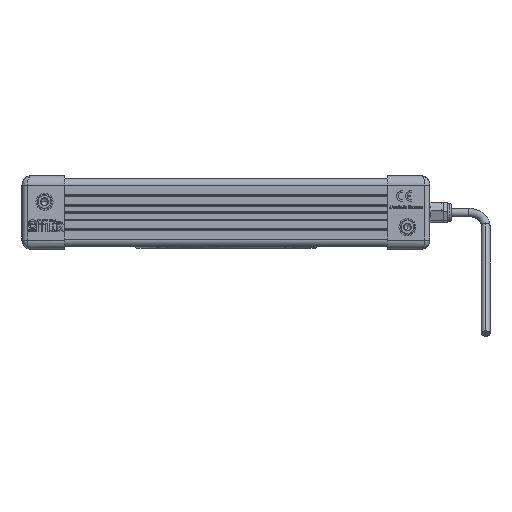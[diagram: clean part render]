
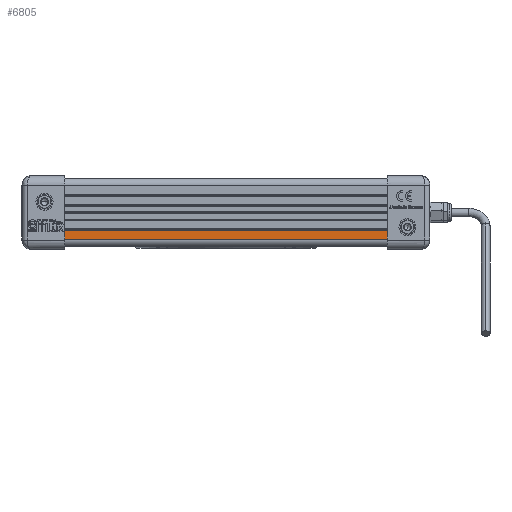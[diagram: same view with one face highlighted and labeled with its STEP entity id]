
A CAD part, front view. The second image highlights one B-rep face of the part: STEP entity #6805.
In plain terms, the highlighted planar face has unit normal (0, -1, 0) as drawn and (-1, 0, 0) by its records, which use the part's own axes.
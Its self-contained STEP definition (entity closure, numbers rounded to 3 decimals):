
#3592 = ORIENTED_EDGE ( 'NONE', *, *, #36834, .F. ) ;
#5064 = LINE ( 'NONE', #22595, #15078 ) ;
#5316 = ORIENTED_EDGE ( 'NONE', *, *, #8168, .T. ) ;
#6209 = CARTESIAN_POINT ( 'NONE',  ( -9., -16., 199. ) ) ;
#6805 = ADVANCED_FACE ( 'NONE', ( #36546 ), #53695, .F. ) ;
#8168 = EDGE_CURVE ( 'NONE', #38437, #26417, #5064, .T. ) ;
#8547 = VECTOR ( 'NONE', #36969, 1000. ) ;
#8924 = DIRECTION ( 'NONE',  ( 1., 0., 0. ) ) ;
#10689 = DIRECTION ( 'NONE',  ( 0., 0., -1. ) ) ;
#12078 = LINE ( 'NONE', #67665, #58712 ) ;
#15078 = VECTOR ( 'NONE', #44254, 1000. ) ;
#15493 = EDGE_CURVE ( 'NONE', #33593, #26417, #39047, .T. ) ;
#17494 = CARTESIAN_POINT ( 'NONE',  ( -9., -10.5, 0. ) ) ;
#19521 = VERTEX_POINT ( 'NONE', #73393 ) ;
#20802 = CARTESIAN_POINT ( 'NONE',  ( -9., -16., 199. ) ) ;
#22595 = CARTESIAN_POINT ( 'NONE',  ( -9., -10.5, 0. ) ) ;
#26161 = ORIENTED_EDGE ( 'NONE', *, *, #15493, .F. ) ;
#26417 = VERTEX_POINT ( 'NONE', #28602 ) ;
#27171 = VECTOR ( 'NONE', #10689, 1000. ) ;
#28602 = CARTESIAN_POINT ( 'NONE',  ( -9., -16., 0. ) ) ;
#33593 = VERTEX_POINT ( 'NONE', #20802 ) ;
#36546 = FACE_OUTER_BOUND ( 'NONE', #41439, .T. ) ;
#36834 = EDGE_CURVE ( 'NONE', #19521, #33593, #42931, .T. ) ;
#36969 = DIRECTION ( 'NONE',  ( 0., -1., 0. ) ) ;
#37294 = CARTESIAN_POINT ( 'NONE',  ( -9., -10.5, 199. ) ) ;
#38437 = VERTEX_POINT ( 'NONE', #17494 ) ;
#39047 = LINE ( 'NONE', #6209, #27171 ) ;
#40790 = ORIENTED_EDGE ( 'NONE', *, *, #57913, .T. ) ;
#41439 = EDGE_LOOP ( 'NONE', ( #5316, #26161, #3592, #40790 ) ) ;
#42931 = LINE ( 'NONE', #58949, #8547 ) ;
#44254 = DIRECTION ( 'NONE',  ( 0., -1., 0. ) ) ;
#53695 = PLANE ( 'NONE',  #64108 ) ;
#57573 = DIRECTION ( 'NONE',  ( 0., 0., -1. ) ) ;
#57913 = EDGE_CURVE ( 'NONE', #19521, #38437, #12078, .T. ) ;
#58712 = VECTOR ( 'NONE', #57573, 1000. ) ;
#58949 = CARTESIAN_POINT ( 'NONE',  ( -9., -10.5, 199. ) ) ;
#64108 = AXIS2_PLACEMENT_3D ( 'NONE', #37294, #8924, #64515 ) ;
#64515 = DIRECTION ( 'NONE',  ( 0., 1., 0. ) ) ;
#67665 = CARTESIAN_POINT ( 'NONE',  ( -9., -10.5, 199. ) ) ;
#73393 = CARTESIAN_POINT ( 'NONE',  ( -9., -10.5, 199. ) ) ;
